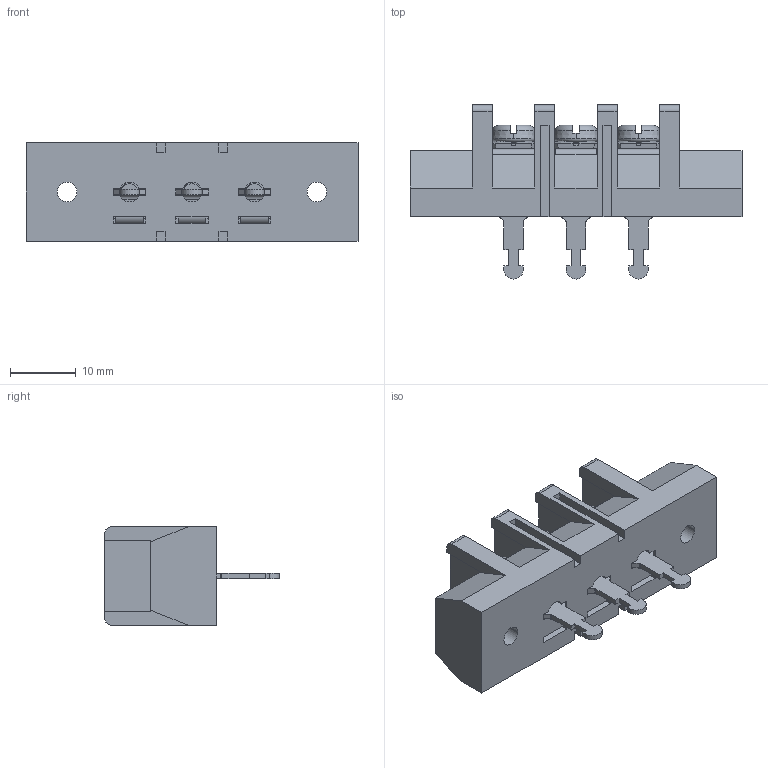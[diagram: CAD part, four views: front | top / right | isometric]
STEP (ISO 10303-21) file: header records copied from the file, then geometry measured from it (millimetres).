
FILE_DESCRIPTION((''),'2;1');
FILE_NAME('3PIN_ASM','2022-06-22T',('renkang.li'),(''),'CREO PARAMETRIC BY PTC INC, 2016260','CREO PARAMETRIC BY PTC INC, 2016260','');
FILE_SCHEMA(('CONFIG_CONTROL_DESIGN'));
Products named in the file (1): 3PIN_ASM
Bounding box: 50.5 x 26.5 x 15 mm (x, y, z)
Volume: 6302.2 mm3; surface area: 7880.2 mm2
Topology: 1 solids, 13 shells, 1282 faces, 3729 edges, 2441 vertices
Faces by surface type: plane 844, cylinder 225, bspline 171, cone 24, torus 18
Entity records: 60746 total; most frequent: CARTESIAN_POINT 28842, ORIENTED_EDGE 7446, DIRECTION 5486, EDGE_CURVE 3723, VERTEX_POINT 2441, VECTOR 2280, LINE 2280, AXIS2_PLACEMENT_3D 1603
